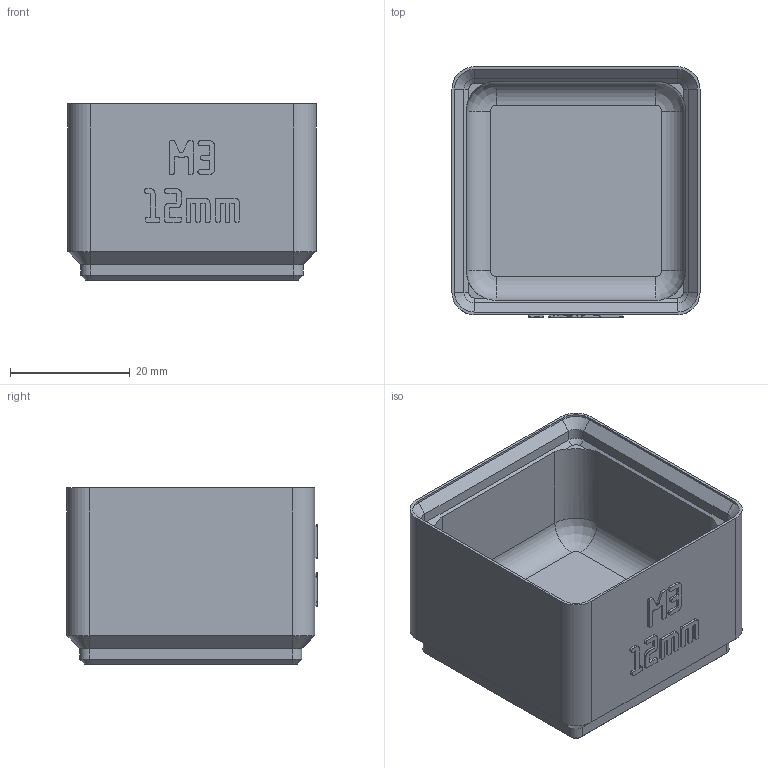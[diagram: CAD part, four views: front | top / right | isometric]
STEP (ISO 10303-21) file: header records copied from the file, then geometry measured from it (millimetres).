
FILE_DESCRIPTION(('Open CASCADE Model'),'2;1');
FILE_NAME('Open CASCADE Shape Model','2026-11-03T10:23:30',('Author'),( 'Open CASCADE'),'Open CASCADE STEP processor 8.0','build123d', 'Unknown');
FILE_SCHEMA(('AUTOMOTIVE_DESIGN { 1 0 10303 214 1 1 1 1 }'));
Length unit declared in the file: millimetre
Products named in the file (1): COMPOUND
Bounding box: 41.5 x 41.9 x 29.5 mm (x, y, z)
Volume: 18938.8 mm3; surface area: 10644.5 mm2
Topology: 1 solids, 1 shells, 688 faces, 1981 edges, 1302 vertices
Faces by surface type: plane 644, cylinder 24, cone 16, revolution 4
Entity records: 46550 total; most frequent: CARTESIAN_POINT 9480, DIRECTION 5979, LINE 4449, VECTOR 4449, ORIENTED_EDGE 3962, PCURVE 3962, DEFINITIONAL_REPRESENTATION 3962, EDGE_CURVE 1981
